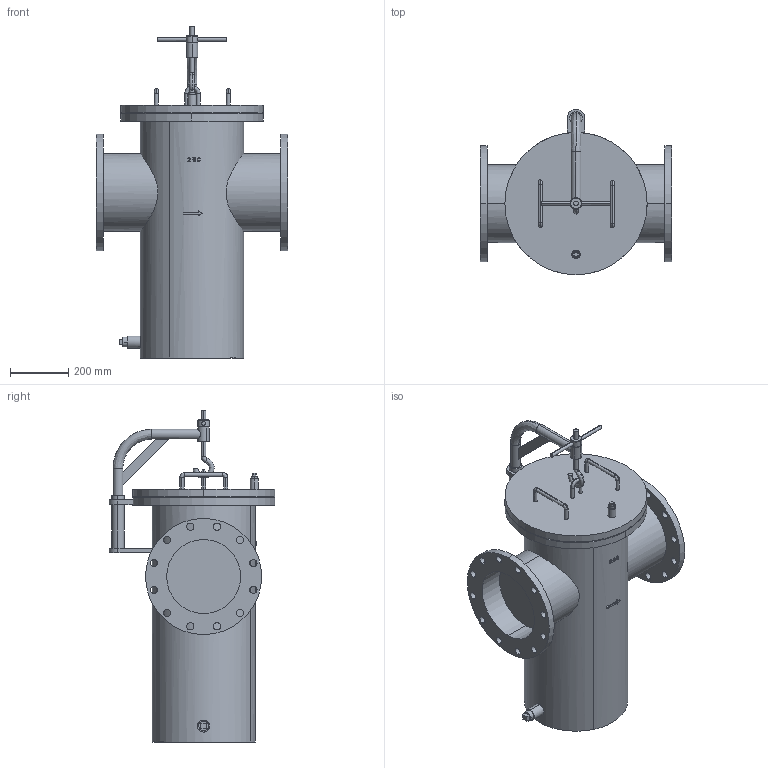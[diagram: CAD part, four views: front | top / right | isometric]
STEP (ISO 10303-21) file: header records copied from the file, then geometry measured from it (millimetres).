
FILE_DESCRIPTION( (''), '2;1');
FILE_NAME ('PC1056.128.SU-6(250A)_26943.stp','2024-07-26T09:45:30',(''),(''),'spGate 19.8.4 (****-****-****-****)','','');
FILE_SCHEMA (('AUTOMOTIVE_DESIGN'));
Length unit declared in the file: millimetre
Products named in the file (24): Assembly; SU6(200A)本体P; 250Aダビッド_M5; PC1056-prt2; PC1056-prt3; PC1056-prt4; PC1056-prt5; PC1056-prt6; PC1056-prt7; PC1056-prt8; 200A取っ手_M6; PC1056-prt10; PC1056-prt11; PC1056-prt12; ふた側フック_M4; PC1056-prt14; PC1056-prt15; PC1056-prt16; PC1056-prt17; PC1056-prt18; 吊り下げフック_M5; 200Aハンドル; plug-25A-JISB2301; 四角頭R1_2プラグ
Assembly tree (24 placements, depth 2):
  Assembly
    SU6(200A)本体P
    250Aダビッド_M5
    PC1056-prt2
    PC1056-prt3
    PC1056-prt4
    PC1056-prt5
    PC1056-prt6
    PC1056-prt7
    PC1056-prt8
    200A取っ手_M6  x2
    PC1056-prt10
    PC1056-prt11
    PC1056-prt12
    ふた側フック_M4
    PC1056-prt14
    PC1056-prt15
    PC1056-prt16
    PC1056-prt17
    PC1056-prt18
    吊り下げフック_M5
    200Aハンドル
    plug-25A-JISB2301
    四角頭R1_2プラグ
Bounding box: 660 x 570 x 1143.5 mm (x, y, z)
Volume: 105625238.1 mm3; surface area: 2466503 mm2
Topology: 9 solids, 9 shells, 313 faces, 768 edges, 521 vertices
Faces by surface type: cylinder 166, plane 95, bspline 52
Entity records: 18747 total; most frequent: CARTESIAN_POINT 5467, ORIENTED_EDGE 1446, DIRECTION 1424, COLOUR_RGB 1047, PRESENTATION_STYLE_ASSIGNMENT 1047, STYLED_ITEM 1047, DRAUGHTING_PRE_DEFINED_CURVE_FONT 738, CURVE_STYLE 738
